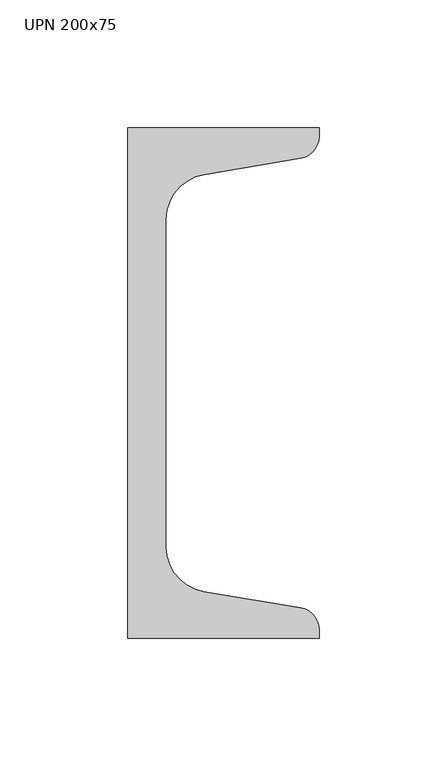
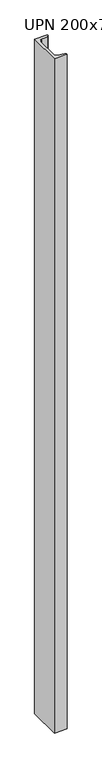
"""IFC4 building model written with IfcOpenShell, lengths in millimetres: column geometry, M_MC Shapes-Column : UPN 200x75."""

from ifc_helpers import new_model, si_unit, point, frame, frame_2d, origin, place, context, project, spatial, polyline, circle_curve, trimmed, segment, composite_curve, outline, extrude, source, transform, mapped, element, save


def upn_200x75_eb6b664d(model_context):
    return source(origin(), model_context, "Body", "SweptSolid", [
        extrude(outline(composite_curve([segment(polyline([(-26.4, -100.0), (-26.4, 100.0), (48.6, 100.0), (48.6, 96.7227759)]), True, "CONTINUOUS"), segment(trimmed(circle_curve(frame_2d((39.7, 96.7227759)), 8.9), [point((48.6, 96.7227759))], [point((41.1631538, 87.9438705))], False, "CARTESIAN"), True, "CONTINUOUS"), segment(polyline([(41.1631538, 87.9438705), (3.4736923, 81.662281)]), True, "CONTINUOUS"), segment(trimmed(circle_curve(frame_2d((6.4, 64.1044701)), 17.8), [point((3.4736923, 81.662281))], [point((-11.4, 64.1044701))], True, "CARTESIAN"), True, "CONTINUOUS"), segment(polyline([(-11.4, 64.1044701), (-11.4, -64.1044701)]), True, "CONTINUOUS"), segment(trimmed(circle_curve(frame_2d((6.4, -64.1044701)), 17.8), [point((-11.4, -64.1044701))], [point((3.4736923, -81.662281))], True, "CARTESIAN"), True, "CONTINUOUS"), segment(polyline([(3.4736923, -81.662281), (41.1631538, -87.9438705)]), True, "CONTINUOUS"), segment(trimmed(circle_curve(frame_2d((39.7, -96.7227759)), 8.9), [point((41.1631538, -87.9438705))], [point((48.6, -96.7227759))], False, "CARTESIAN"), True, "CONTINUOUS"), segment(polyline([(48.6, -96.7227759), (48.6, -100.0), (-26.4, -100.0)]), True, "CONTINUOUS")], self_intersect=False)), frame((0.0, 0.0, 33660.0), z_axis=(0.0, 0.0, 1.0), x_axis=(1.0, 0.0, 0.0)), (0.0, 0.0, 1.0), 4200.0),
    ])


if __name__ == "__main__":
    model = new_model("IFC4")
    model_context = context("Model", 3, world=origin())
    ifc_project = project(units=[si_unit("LENGTHUNIT", "METRE", prefix="MILLI")], contexts=[model_context])
    site = spatial("IfcSite", under=ifc_project)
    building = spatial("IfcBuilding", under=site)
    placement = place(None, origin())
    upn_200x75_shape = upn_200x75_eb6b664d(model_context)
    element("IfcColumn", 1, ObjectType="M_MC Shapes-Column : UPN 200x75", at=placement, inside=building, context=model_context, shape_type="MappedRepresentation", body=[
        mapped(upn_200x75_shape, transform((0.0, 0.0, 0.0), x_axis=(1.0, 0.0, 0.0), y_axis=(0.0, 1.0, 0.0), z_axis=(0.0, 0.0, 1.0))),
    ])
    save(model, "model.ifc")
